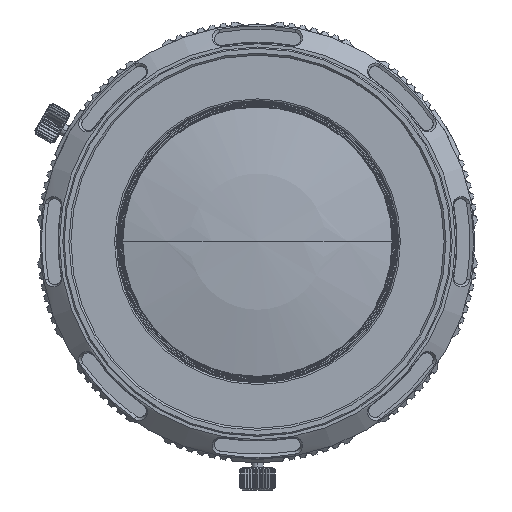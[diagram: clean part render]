
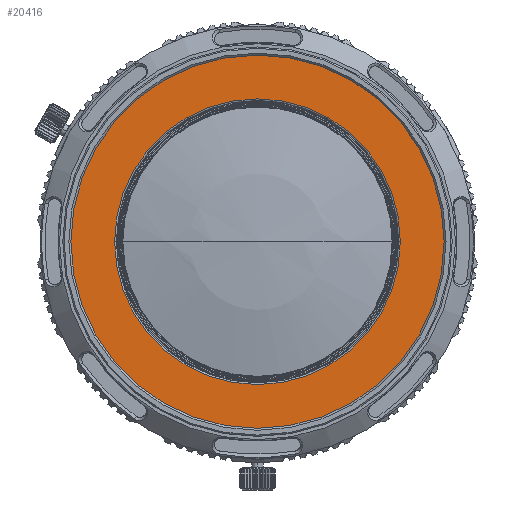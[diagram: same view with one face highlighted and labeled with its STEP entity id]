
A CAD part, left-side view. The second image highlights one B-rep face of the part: STEP entity #20416.
In plain terms, the highlighted planar face has unit normal (-1, 0, 0).
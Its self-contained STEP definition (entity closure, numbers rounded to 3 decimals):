
#6904=CARTESIAN_POINT('',(-40.878,0.,0.));
#6905=DIRECTION('',(-1.,0.,0.));
#6906=DIRECTION('',(0.,1.,0.));
#6907=AXIS2_PLACEMENT_3D('',#6904,#6905,#6906);
#6909=CARTESIAN_POINT('',(-40.878,0.,0.));
#6910=DIRECTION('',(1.,0.,0.));
#6911=DIRECTION('',(0.,1.,0.));
#6912=AXIS2_PLACEMENT_3D('',#6909,#6910,#6911);
#6914=CARTESIAN_POINT('',(-40.878,0.,0.));
#6915=DIRECTION('',(-1.,0.,0.));
#6916=DIRECTION('',(0.,-1.,0.));
#6917=AXIS2_PLACEMENT_3D('',#6914,#6915,#6916);
#6919=CARTESIAN_POINT('',(-40.878,0.,0.));
#6920=DIRECTION('',(-1.,0.,0.));
#6921=DIRECTION('',(0.,1.,0.));
#6922=AXIS2_PLACEMENT_3D('',#6919,#6920,#6921);
#11283=CARTESIAN_POINT('',(-40.878,29.25,0.));
#11285=VERTEX_POINT('',#11283);
#11287=CARTESIAN_POINT('',(-40.878,-29.25,0.));
#11289=VERTEX_POINT('',#11287);
#11314=CARTESIAN_POINT('',(-40.878,-22.005,0.));
#11315=CARTESIAN_POINT('',(-40.878,22.005,0.));
#11316=VERTEX_POINT('',#11314);
#11317=VERTEX_POINT('',#11315);
#20401=CARTESIAN_POINT('',(-40.878,0.,0.));
#20402=DIRECTION('',(1.,0.,0.));
#20403=DIRECTION('',(0.,-1.,0.));
#20404=AXIS2_PLACEMENT_3D('',#20401,#20402,#20403);
#20405=PLANE('',#20404);
#20406=ORIENTED_EDGE('',*,*,#20394,.F.);
#20407=ORIENTED_EDGE('',*,*,#20383,.T.);
#20408=EDGE_LOOP('',(#20406,#20407));
#20409=FACE_OUTER_BOUND('',#20408,.F.);
#20411=ORIENTED_EDGE('',*,*,#20410,.T.);
#20413=ORIENTED_EDGE('',*,*,#20412,.T.);
#20414=EDGE_LOOP('',(#20411,#20413));
#20415=FACE_BOUND('',#20414,.F.);
#6908=CIRCLE('',#6907,29.25);
#6913=CIRCLE('',#6912,29.25);
#6918=CIRCLE('',#6917,22.005);
#6923=CIRCLE('',#6922,22.005);
#20383=EDGE_CURVE('',#11285,#11289,#6913,.T.);
#20394=EDGE_CURVE('',#11285,#11289,#6908,.T.);
#20410=EDGE_CURVE('',#11316,#11317,#6918,.T.);
#20412=EDGE_CURVE('',#11317,#11316,#6923,.T.);
#20416=ADVANCED_FACE('',(#20409,#20415),#20405,.F.);
